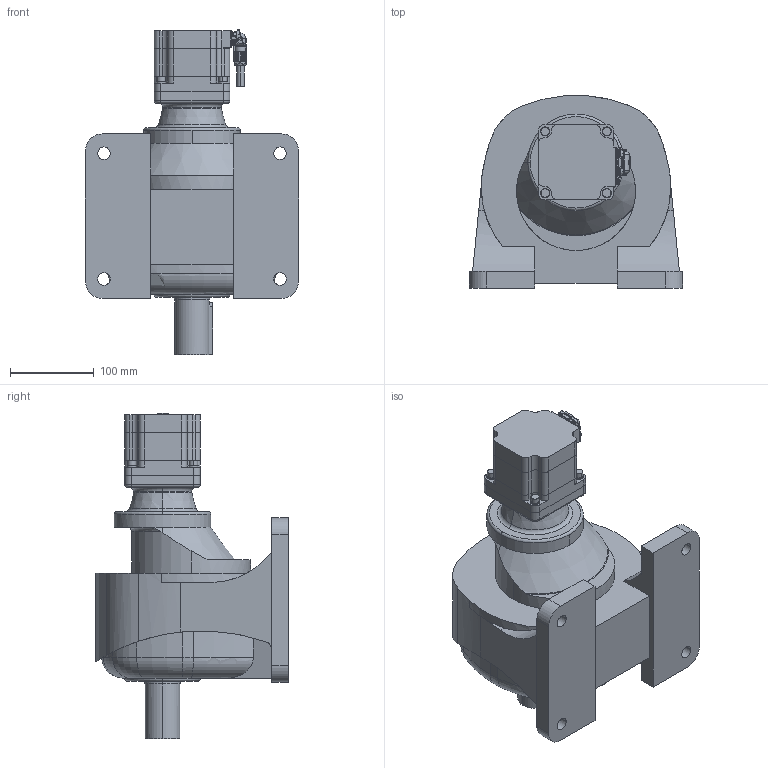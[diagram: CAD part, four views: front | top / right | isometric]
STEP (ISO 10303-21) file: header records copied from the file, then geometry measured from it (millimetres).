
FILE_DESCRIPTION (( 'STEP AP203' ), '1' );
FILE_NAME ('A1657.step', '2017-09-12T07:24:22', ( 'om' ), ( '' ), 'SwSTEP 2.0', 'SolidWorks 2014', '' );
FILE_SCHEMA (( 'CONFIG_CONTROL_DESIGN' ));
Length unit declared in the file: millimetre
Products named in the file (1): A1657
Bounding box: 254 x 229.85 x 387.5 mm (x, y, z)
Volume: 7514029 mm3; surface area: 349647.7 mm2
Topology: 3 solids, 10 shells, 1227 faces, 3202 edges, 2024 vertices
Faces by surface type: plane 598, cylinder 468, torus 73, bspline 59, cone 25, sphere 4
Entity records: 45895 total; most frequent: CARTESIAN_POINT 16511, ORIENTED_EDGE 6380, DIRECTION 5777, EDGE_CURVE 3190, VERTEX_POINT 2024, AXIS2_PLACEMENT_3D 2000, LINE 1777, VECTOR 1777
